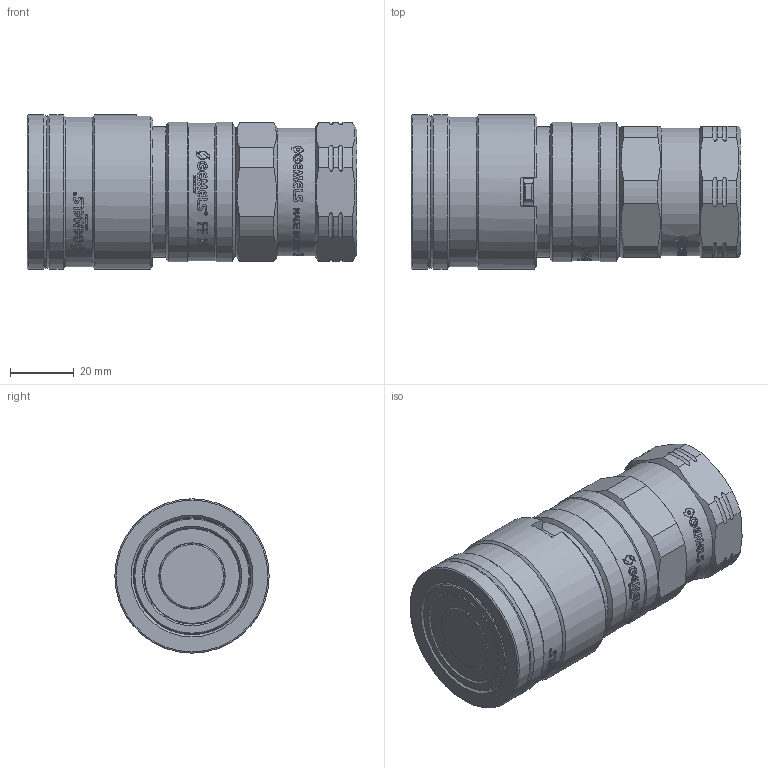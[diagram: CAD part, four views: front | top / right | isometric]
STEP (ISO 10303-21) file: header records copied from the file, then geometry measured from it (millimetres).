
FILE_DESCRIPTION(/* description */ (''),/* implementation_level */ '2;1');
FILE_NAME(/* name */ 'NC06S050000.stp',/* time_stamp */ '2024-11-22T15:08:51+01:00',/* author */ ('thomas.belotti'),/* organization */ (''),/* preprocessor_version */ 'ST-DEVELOPER v20',/* originating_system */ 'Autodesk Inventor 2024',/* authorisation */ '');
FILE_SCHEMA (('AUTOMOTIVE_DESIGN { 1 0 10303 214 3 1 1 }'));
Products named in the file (1): Parte11
Bounding box: 103.01 x 48.2 x 48.2 mm (x, y, z)
Volume: 140459.6 mm3; surface area: 23722 mm2
Topology: 1 solids, 1 shells, 1811 faces, 5103 edges, 3399 vertices
Faces by surface type: bspline 1183, plane 456, cylinder 137, cone 19, torus 16
Full cylindrical faces by diameter (mm): 20.55 x1, 20.75 x1, 30 x1, 30.1 x1, 31.26 x1, 31.5 x1, 36.3 x1, 36.7 x1, 37 x1, 37.3 x1, 40 x1, 40.9 x1, 41.1 x1, 43 x1, 43.6 x1, 43.7 x1, 46.7 x1, 48.2 x3
Entity records: 78257 total; most frequent: CARTESIAN_POINT 37790, ORIENTED_EDGE 10206, EDGE_CURVE 5103, DIRECTION 4241, VERTEX_POINT 3398, B_SPLINE_CURVE_WITH_KNOTS 2616, LINE 1931, VECTOR 1931
